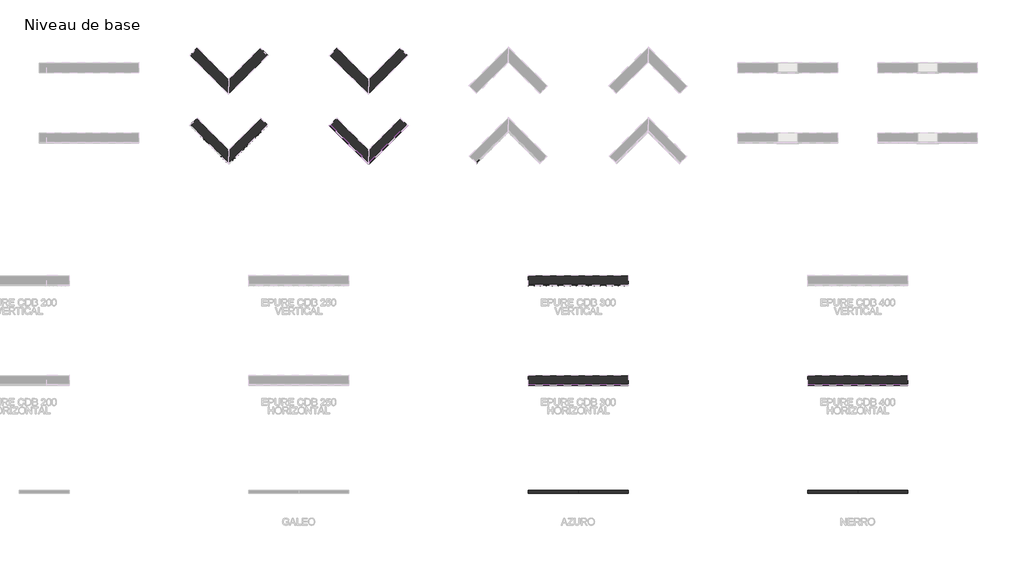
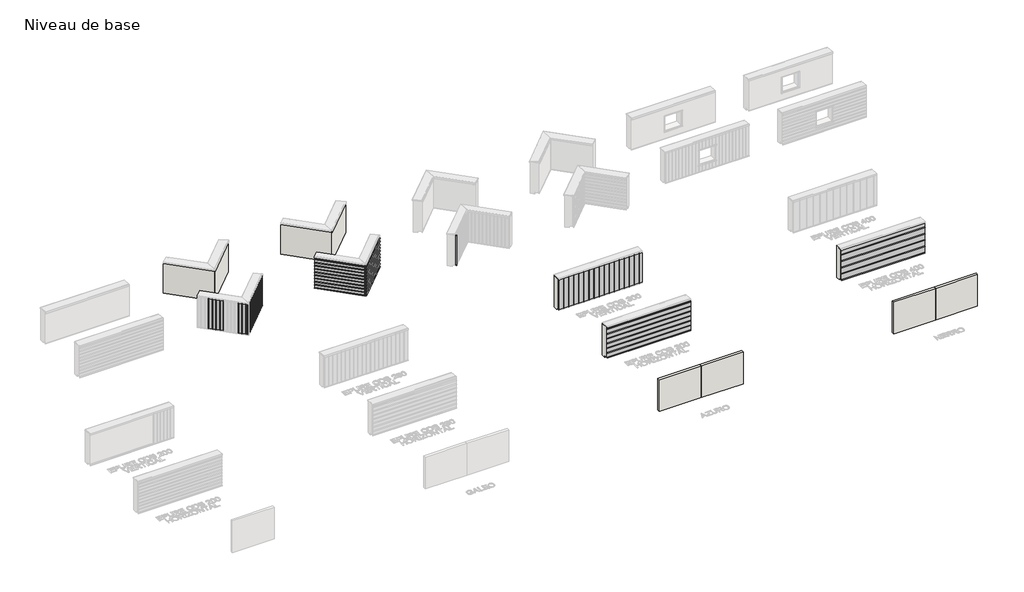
# One storey, part 2 of 13: 70 plates, 15 walls, 10 members.
"""IFC4 building model written with IfcOpenShell, lengths in millimetres."""

from ifc_helpers import new_model, si_unit, frame, origin, origin_with_axes, place, context, project, spatial, polyline, outline, extrude, faceted_brep, transform, mapped, element, save
from components import member_9001d6f0, member_c9027878, plate_4f3c44bf, plate_3790eff7, plate_e6411eb0, plate_7d20323a, plate_a9dbc21c, plate_23d42e5c, plate_d424103e, plate_377ee14b, plate_d9d45059, plate_69c7ef5c, plate_085f16ba, plate_c27208d2

model = new_model("IFC4")

# Units and contexts
model_context = context("Model", 3, world=origin())
ifc_project = project(units=[si_unit("LENGTHUNIT", "METRE", prefix="MILLI")], contexts=[model_context])

# Site, building, storey
site = spatial("IfcSite", under=ifc_project)
building = spatial("IfcBuilding", under=site)
storey = spatial("IfcBuildingStorey", under=building, Name="Niveau de base", Elevation=0.0)

# Members
placement = place(None, origin())
member_shape = member_9001d6f0(model_context)
element("IfcMember", 1, ObjectType="Meneau d'angle en L : ATELIERS 3S_Angle sortant", at=placement, inside=storey, context=model_context, shape_type="MappedRepresentation", body=[
    mapped(member_shape, transform((-3442.9704237, 40009.4162142, 500.0), x_axis=(-0.7071067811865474, -0.7071067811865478, 0.0), y_axis=(0.7071067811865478, -0.7071067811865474, 0.0), z_axis=(0.0, 0.0, 1.0))),
])
element("IfcMember", 2, ObjectType="Meneau d'angle en L : ATELIERS 3S_Angle sortant", at=placement, inside=storey, context=model_context, shape_type="MappedRepresentation", body=[
    mapped(member_shape, transform((-3442.9704237, 40009.4162142, 700.0), x_axis=(-0.7071067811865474, -0.7071067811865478, 0.0), y_axis=(0.7071067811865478, -0.7071067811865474, 0.0), z_axis=(0.0, 0.0, 1.0))),
])
element("IfcMember", 3, ObjectType="Meneau d'angle en L : ATELIERS 3S_Angle sortant", at=placement, inside=storey, context=model_context, shape_type="MappedRepresentation", body=[
    mapped(member_shape, transform((-3442.9704237, 40009.4162142, 900.0), x_axis=(-0.7071067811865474, -0.7071067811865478, 0.0), y_axis=(0.7071067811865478, -0.7071067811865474, 0.0), z_axis=(0.0, 0.0, 1.0))),
])
element("IfcMember", 4, ObjectType="Meneau d'angle en L : ATELIERS 3S_Angle sortant", at=placement, inside=storey, context=model_context, shape_type="MappedRepresentation", body=[
    mapped(member_shape, transform((-3442.9704237, 40009.4162142, 1100.0), x_axis=(-0.7071067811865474, -0.7071067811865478, 0.0), y_axis=(0.7071067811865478, -0.7071067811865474, 0.0), z_axis=(0.0, 0.0, 1.0))),
])
element("IfcMember", 5, ObjectType="Meneau d'angle en L : ATELIERS 3S_Angle sortant", at=placement, inside=storey, context=model_context, shape_type="MappedRepresentation", body=[
    mapped(member_shape, transform((-3442.9704237, 40009.4162142, 1300.0), x_axis=(-0.7071067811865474, -0.7071067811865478, 0.0), y_axis=(0.7071067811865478, -0.7071067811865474, 0.0), z_axis=(0.0, 0.0, 1.0))),
])
element("IfcMember", 6, ObjectType="Meneau d'angle en L : ATELIERS 3S_Angle sortant", at=placement, inside=storey, context=model_context, shape_type="MappedRepresentation", body=[
    mapped(member_shape, transform((-3442.9704237, 40009.4162142, 1500.0), x_axis=(-0.7071067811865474, -0.7071067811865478, 0.0), y_axis=(0.7071067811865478, -0.7071067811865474, 0.0), z_axis=(0.0, 0.0, 1.0))),
])
element("IfcMember", 7, ObjectType="Meneau d'angle en L : ATELIERS 3S_Angle sortant", at=placement, inside=storey, context=model_context, shape_type="MappedRepresentation", body=[
    mapped(member_shape, transform((-3442.9704237, 40009.4162142, 1700.0), x_axis=(-0.7071067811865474, -0.7071067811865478, 0.0), y_axis=(0.7071067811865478, -0.7071067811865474, 0.0), z_axis=(0.0, 0.0, 1.0))),
])
element("IfcMember", 8, ObjectType="Meneau d'angle en L : ATELIERS 3S_Angle sortant", at=placement, inside=storey, context=model_context, shape_type="MappedRepresentation", body=[
    mapped(member_shape, transform((-3442.9704237, 40009.4162142, 1900.0), x_axis=(-0.7071067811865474, -0.7071067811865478, 0.0), y_axis=(0.7071067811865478, -0.7071067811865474, 0.0), z_axis=(0.0, 0.0, 1.0))),
])
element("IfcMember", 9, ObjectType="Meneau d'angle en L : ATELIERS 3S_Angle sortant", at=placement, inside=storey, context=model_context, shape_type="MappedRepresentation", body=[
    mapped(member_shape, transform((-3442.9704237, 40009.4162142, 300.0), x_axis=(-0.7071067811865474, -0.7071067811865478, 0.0), y_axis=(0.7071067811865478, -0.7071067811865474, 0.0), z_axis=(0.0, 0.0, 1.0))),
])
member_2_shape = member_c9027878(model_context)
element("IfcMember", 10, ObjectType="Meneau d'angle en L : ATELIERS 3S_Angle sortant", at=placement, inside=storey, context=model_context, shape_type="MappedRepresentation", body=[
    mapped(member_2_shape, transform((-3442.9704237, 40009.4162142, 2000.0), x_axis=(-0.7071067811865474, -0.7071067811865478, 0.0), y_axis=(0.7071067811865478, -0.7071067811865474, 0.0), z_axis=(0.0, 0.0, 1.0))),
])

# Plates
plate_shape = plate_4f3c44bf(model_context)
element("IfcPlate", 11, ObjectType="ATELIERS 3S_EPURE CDB 200_HORIZONTAL : AZURO", at=placement, inside=storey, context=model_context, shape_type="MappedRepresentation", body=[
    mapped(plate_shape, transform((-4407.4640733, 40973.9098637, 100.0), x_axis=(0.7071067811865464, -0.7071067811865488, 0.0), y_axis=(0.7071067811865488, 0.7071067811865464, 0.0), z_axis=(0.0, 0.0, 1.0))),
])
element("IfcPlate", 12, ObjectType="ATELIERS 3S_EPURE CDB 200_HORIZONTAL : AZURO", at=placement, inside=storey, context=model_context, shape_type="MappedRepresentation", body=[
    mapped(plate_shape, transform((-4407.4640733, 40973.9098637, 300.0), x_axis=(0.7071067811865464, -0.7071067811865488, 0.0), y_axis=(0.7071067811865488, 0.7071067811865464, 0.0), z_axis=(0.0, 0.0, 1.0))),
])
element("IfcPlate", 13, ObjectType="ATELIERS 3S_EPURE CDB 200_HORIZONTAL : AZURO", at=placement, inside=storey, context=model_context, shape_type="MappedRepresentation", body=[
    mapped(plate_shape, transform((-4407.4640733, 40973.9098637, 500.0), x_axis=(0.7071067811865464, -0.7071067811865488, 0.0), y_axis=(0.7071067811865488, 0.7071067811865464, 0.0), z_axis=(0.0, 0.0, 1.0))),
])
element("IfcPlate", 14, ObjectType="ATELIERS 3S_EPURE CDB 200_HORIZONTAL : AZURO", at=placement, inside=storey, context=model_context, shape_type="MappedRepresentation", body=[
    mapped(plate_shape, transform((-4407.4640733, 40973.9098637, 700.0), x_axis=(0.7071067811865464, -0.7071067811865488, 0.0), y_axis=(0.7071067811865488, 0.7071067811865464, 0.0), z_axis=(0.0, 0.0, 1.0))),
])
element("IfcPlate", 15, ObjectType="ATELIERS 3S_EPURE CDB 200_HORIZONTAL : AZURO", at=placement, inside=storey, context=model_context, shape_type="MappedRepresentation", body=[
    mapped(plate_shape, transform((-4407.4640733, 40973.9098637, 900.0), x_axis=(0.7071067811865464, -0.7071067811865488, 0.0), y_axis=(0.7071067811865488, 0.7071067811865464, 0.0), z_axis=(0.0, 0.0, 1.0))),
])
element("IfcPlate", 16, ObjectType="ATELIERS 3S_EPURE CDB 200_HORIZONTAL : AZURO", at=placement, inside=storey, context=model_context, shape_type="MappedRepresentation", body=[
    mapped(plate_shape, transform((-4407.4640733, 40973.9098637, 1100.0), x_axis=(0.7071067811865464, -0.7071067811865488, 0.0), y_axis=(0.7071067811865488, 0.7071067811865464, 0.0), z_axis=(0.0, 0.0, 1.0))),
])
element("IfcPlate", 17, ObjectType="ATELIERS 3S_EPURE CDB 200_HORIZONTAL : AZURO", at=placement, inside=storey, context=model_context, shape_type="MappedRepresentation", body=[
    mapped(plate_shape, transform((-4407.4640733, 40973.9098637, 1300.0), x_axis=(0.7071067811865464, -0.7071067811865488, 0.0), y_axis=(0.7071067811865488, 0.7071067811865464, 0.0), z_axis=(0.0, 0.0, 1.0))),
])
element("IfcPlate", 18, ObjectType="ATELIERS 3S_EPURE CDB 200_HORIZONTAL : AZURO", at=placement, inside=storey, context=model_context, shape_type="MappedRepresentation", body=[
    mapped(plate_shape, transform((-4407.4640733, 40973.9098637, 1500.0), x_axis=(0.7071067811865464, -0.7071067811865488, 0.0), y_axis=(0.7071067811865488, 0.7071067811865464, 0.0), z_axis=(0.0, 0.0, 1.0))),
])
element("IfcPlate", 19, ObjectType="ATELIERS 3S_EPURE CDB 200_HORIZONTAL : AZURO", at=placement, inside=storey, context=model_context, shape_type="MappedRepresentation", body=[
    mapped(plate_shape, transform((-4407.4640733, 40973.9098637, 1700.0), x_axis=(0.7071067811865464, -0.7071067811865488, 0.0), y_axis=(0.7071067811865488, 0.7071067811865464, 0.0), z_axis=(0.0, 0.0, 1.0))),
])
plate_2_shape = plate_3790eff7(model_context)
element("IfcPlate", 20, ObjectType="ATELIERS 3S_EPURE CDB 200_HORIZONTAL : AZURO", at=placement, inside=storey, context=model_context, shape_type="MappedRepresentation", body=[
    mapped(plate_2_shape, transform((-2481.8355314, 40970.5511065, 100.0), x_axis=(0.7071067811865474, 0.7071067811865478, 0.0), y_axis=(-0.7071067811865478, 0.7071067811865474, 0.0), z_axis=(0.0, 0.0, 1.0))),
])
element("IfcPlate", 21, ObjectType="ATELIERS 3S_EPURE CDB 200_HORIZONTAL : AZURO", at=placement, inside=storey, context=model_context, shape_type="MappedRepresentation", body=[
    mapped(plate_2_shape, transform((-2481.8355314, 40970.5511065, 300.0), x_axis=(0.7071067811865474, 0.7071067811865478, 0.0), y_axis=(-0.7071067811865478, 0.7071067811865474, 0.0), z_axis=(0.0, 0.0, 1.0))),
])
element("IfcPlate", 22, ObjectType="ATELIERS 3S_EPURE CDB 200_HORIZONTAL : AZURO", at=placement, inside=storey, context=model_context, shape_type="MappedRepresentation", body=[
    mapped(plate_2_shape, transform((-2481.8355314, 40970.5511065, 500.0), x_axis=(0.7071067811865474, 0.7071067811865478, 0.0), y_axis=(-0.7071067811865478, 0.7071067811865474, 0.0), z_axis=(0.0, 0.0, 1.0))),
])
element("IfcPlate", 23, ObjectType="ATELIERS 3S_EPURE CDB 200_HORIZONTAL : AZURO", at=placement, inside=storey, context=model_context, shape_type="MappedRepresentation", body=[
    mapped(plate_2_shape, transform((-2481.8355314, 40970.5511065, 700.0), x_axis=(0.7071067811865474, 0.7071067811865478, 0.0), y_axis=(-0.7071067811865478, 0.7071067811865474, 0.0), z_axis=(0.0, 0.0, 1.0))),
])
element("IfcPlate", 24, ObjectType="ATELIERS 3S_EPURE CDB 200_HORIZONTAL : AZURO", at=placement, inside=storey, context=model_context, shape_type="MappedRepresentation", body=[
    mapped(plate_2_shape, transform((-2481.8355314, 40970.5511065, 900.0), x_axis=(0.7071067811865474, 0.7071067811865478, 0.0), y_axis=(-0.7071067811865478, 0.7071067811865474, 0.0), z_axis=(0.0, 0.0, 1.0))),
])
element("IfcPlate", 25, ObjectType="ATELIERS 3S_EPURE CDB 200_HORIZONTAL : AZURO", at=placement, inside=storey, context=model_context, shape_type="MappedRepresentation", body=[
    mapped(plate_2_shape, transform((-2481.8355314, 40970.5511065, 1100.0), x_axis=(0.7071067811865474, 0.7071067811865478, 0.0), y_axis=(-0.7071067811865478, 0.7071067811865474, 0.0), z_axis=(0.0, 0.0, 1.0))),
])
element("IfcPlate", 26, ObjectType="ATELIERS 3S_EPURE CDB 200_HORIZONTAL : AZURO", at=placement, inside=storey, context=model_context, shape_type="MappedRepresentation", body=[
    mapped(plate_2_shape, transform((-2481.8355314, 40970.5511065, 1300.0), x_axis=(0.7071067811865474, 0.7071067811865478, 0.0), y_axis=(-0.7071067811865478, 0.7071067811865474, 0.0), z_axis=(0.0, 0.0, 1.0))),
])
element("IfcPlate", 27, ObjectType="ATELIERS 3S_EPURE CDB 200_HORIZONTAL : AZURO", at=placement, inside=storey, context=model_context, shape_type="MappedRepresentation", body=[
    mapped(plate_2_shape, transform((-2481.8355314, 40970.5511065, 1500.0), x_axis=(0.7071067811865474, 0.7071067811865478, 0.0), y_axis=(-0.7071067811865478, 0.7071067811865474, 0.0), z_axis=(0.0, 0.0, 1.0))),
])
element("IfcPlate", 28, ObjectType="ATELIERS 3S_EPURE CDB 200_HORIZONTAL : AZURO", at=placement, inside=storey, context=model_context, shape_type="MappedRepresentation", body=[
    mapped(plate_2_shape, transform((-2481.8355314, 40970.5511065, 1700.0), x_axis=(0.7071067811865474, 0.7071067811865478, 0.0), y_axis=(-0.7071067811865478, 0.7071067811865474, 0.0), z_axis=(0.0, 0.0, 1.0))),
])
plate_3_shape = plate_e6411eb0(model_context)
element("IfcPlate", 29, ObjectType="ATELIERS 3S_EPURE CDB 200_HORIZONTAL : AZURO", at=placement, inside=storey, context=model_context, shape_type="MappedRepresentation", body=[
    mapped(plate_3_shape, transform((-4407.4640733, 40973.9098637, 1900.0), x_axis=(0.7071067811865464, -0.7071067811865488, 0.0), y_axis=(0.7071067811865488, 0.7071067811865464, 0.0), z_axis=(0.0, 0.0, 1.0))),
])
plate_4_shape = plate_7d20323a(model_context)
element("IfcPlate", 30, ObjectType="ATELIERS 3S_EPURE CDB 200_HORIZONTAL : AZURO", at=placement, inside=storey, context=model_context, shape_type="MappedRepresentation", body=[
    mapped(plate_4_shape, transform((-2481.8355314, 40970.5511065, 1900.0), x_axis=(0.7071067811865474, 0.7071067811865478, 0.0), y_axis=(-0.7071067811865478, 0.7071067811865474, 0.0), z_axis=(0.0, 0.0, 1.0))),
])
plate_5_shape = plate_a9dbc21c(model_context)
element("IfcPlate", 31, ObjectType="ATELIERS 3S_EPURE CDB 200_VERTICAL : AZURO", at=placement, inside=storey, context=model_context, shape_type="MappedRepresentation", body=[
    mapped(plate_5_shape, transform((2012.7083663, 40086.8444068, 100.0), x_axis=(0.7071067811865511, 0.707106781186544, 0.0), y_axis=(-0.707106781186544, 0.7071067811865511, 0.0), z_axis=(0.0, 0.0, 1.0))),
])
element("IfcPlate", 32, ObjectType="ATELIERS 3S_EPURE CDB 200_VERTICAL : AZURO", at=placement, inside=storey, context=model_context, shape_type="MappedRepresentation", body=[
    mapped(plate_5_shape, transform((-11868.4976944, 41434.9434848, 100.0), x_axis=(0.7071067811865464, -0.7071067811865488, 0.0), y_axis=(0.7071067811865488, 0.7071067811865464, 0.0), z_axis=(0.0, 0.0, 1.0))),
])
element("IfcPlate", 33, ObjectType="ATELIERS 3S_EPURE CDB 200_VERTICAL : AZURO", at=placement, inside=storey, context=model_context, shape_type="MappedRepresentation", body=[
    mapped(plate_5_shape, transform((-11727.0763381, 41293.5221286, 100.0), x_axis=(0.7071067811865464, -0.7071067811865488, 0.0), y_axis=(0.7071067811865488, 0.7071067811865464, 0.0), z_axis=(0.0, 0.0, 1.0))),
])
element("IfcPlate", 34, ObjectType="ATELIERS 3S_EPURE CDB 200_VERTICAL : AZURO", at=placement, inside=storey, context=model_context, shape_type="MappedRepresentation", body=[
    mapped(plate_5_shape, transform((-11585.6549819, 41152.1007724, 100.0), x_axis=(0.7071067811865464, -0.7071067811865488, 0.0), y_axis=(0.7071067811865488, 0.7071067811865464, 0.0), z_axis=(0.0, 0.0, 1.0))),
])
element("IfcPlate", 35, ObjectType="ATELIERS 3S_EPURE CDB 200_VERTICAL : AZURO", at=placement, inside=storey, context=model_context, shape_type="MappedRepresentation", body=[
    mapped(plate_5_shape, transform((-11444.2336257, 41010.6794161, 100.0), x_axis=(0.7071067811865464, -0.7071067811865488, 0.0), y_axis=(0.7071067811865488, 0.7071067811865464, 0.0), z_axis=(0.0, 0.0, 1.0))),
])
element("IfcPlate", 36, ObjectType="ATELIERS 3S_EPURE CDB 200_VERTICAL : AZURO", at=placement, inside=storey, context=model_context, shape_type="MappedRepresentation", body=[
    mapped(plate_5_shape, transform((-10737.1268445, 40303.5726349, 100.0), x_axis=(0.7071067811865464, -0.7071067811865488, 0.0), y_axis=(0.7071067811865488, 0.7071067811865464, 0.0), z_axis=(0.0, 0.0, 1.0))),
])
element("IfcPlate", 37, ObjectType="ATELIERS 3S_EPURE CDB 200_VERTICAL : AZURO", at=placement, inside=storey, context=model_context, shape_type="MappedRepresentation", body=[
    mapped(plate_5_shape, transform((-10595.7054882, 40162.1512787, 100.0), x_axis=(0.7071067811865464, -0.7071067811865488, 0.0), y_axis=(0.7071067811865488, 0.7071067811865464, 0.0), z_axis=(0.0, 0.0, 1.0))),
])
element("IfcPlate", 38, ObjectType="ATELIERS 3S_EPURE CDB 200_VERTICAL : AZURO", at=placement, inside=storey, context=model_context, shape_type="MappedRepresentation", body=[
    mapped(plate_5_shape, transform((-10222.3531078, 40230.0335301, 100.0), x_axis=(0.7071067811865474, 0.7071067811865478, 0.0), y_axis=(-0.7071067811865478, 0.7071067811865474, 0.0), z_axis=(0.0, 0.0, 1.0))),
])
element("IfcPlate", 39, ObjectType="ATELIERS 3S_EPURE CDB 200_VERTICAL : AZURO", at=placement, inside=storey, context=model_context, shape_type="MappedRepresentation", body=[
    mapped(plate_5_shape, transform((-10080.9317515, 40371.4548864, 100.0), x_axis=(0.7071067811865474, 0.7071067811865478, 0.0), y_axis=(-0.7071067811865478, 0.7071067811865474, 0.0), z_axis=(0.0, 0.0, 1.0))),
])
element("IfcPlate", 40, ObjectType="ATELIERS 3S_EPURE CDB 200_VERTICAL : AZURO", at=placement, inside=storey, context=model_context, shape_type="MappedRepresentation", body=[
    mapped(plate_5_shape, transform((-9939.5103953, 40512.8762426, 100.0), x_axis=(0.7071067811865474, 0.7071067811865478, 0.0), y_axis=(-0.7071067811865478, 0.7071067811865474, 0.0), z_axis=(0.0, 0.0, 1.0))),
])
element("IfcPlate", 41, ObjectType="ATELIERS 3S_EPURE CDB 200_VERTICAL : AZURO", at=placement, inside=storey, context=model_context, shape_type="MappedRepresentation", body=[
    mapped(plate_5_shape, transform((-9798.0890391, 40654.2975988, 100.0), x_axis=(0.7071067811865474, 0.7071067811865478, 0.0), y_axis=(-0.7071067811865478, 0.7071067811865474, 0.0), z_axis=(0.0, 0.0, 1.0))),
])
element("IfcPlate", 42, ObjectType="ATELIERS 3S_EPURE CDB 200_VERTICAL : AZURO", at=placement, inside=storey, context=model_context, shape_type="MappedRepresentation", body=[
    mapped(plate_5_shape, transform((-9656.6676828, 40795.7189551, 100.0), x_axis=(0.7071067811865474, 0.7071067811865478, 0.0), y_axis=(-0.7071067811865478, 0.7071067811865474, 0.0), z_axis=(0.0, 0.0, 1.0))),
])
element("IfcPlate", 43, ObjectType="ATELIERS 3S_EPURE CDB 200_VERTICAL : AZURO", at=placement, inside=storey, context=model_context, shape_type="MappedRepresentation", body=[
    mapped(plate_5_shape, transform((-9515.2463266, 40937.1403113, 100.0), x_axis=(0.7071067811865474, 0.7071067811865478, 0.0), y_axis=(-0.7071067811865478, 0.7071067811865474, 0.0), z_axis=(0.0, 0.0, 1.0))),
])
element("IfcPlate", 44, ObjectType="ATELIERS 3S_EPURE CDB 200_VERTICAL : AZURO", at=placement, inside=storey, context=model_context, shape_type="MappedRepresentation", body=[
    mapped(plate_5_shape, transform((-9373.8249704, 41078.5616676, 100.0), x_axis=(0.7071067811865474, 0.7071067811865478, 0.0), y_axis=(-0.7071067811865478, 0.7071067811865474, 0.0), z_axis=(0.0, 0.0, 1.0))),
])
element("IfcPlate", 45, ObjectType="ATELIERS 3S_EPURE CDB 200_VERTICAL : AZURO", at=placement, inside=storey, context=model_context, shape_type="MappedRepresentation", body=[
    mapped(plate_5_shape, transform((-9232.4036141, 41219.9830238, 100.0), x_axis=(0.7071067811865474, 0.7071067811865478, 0.0), y_axis=(-0.7071067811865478, 0.7071067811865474, 0.0), z_axis=(0.0, 0.0, 1.0))),
])
element("IfcPlate", 46, ObjectType="ATELIERS 3S_EPURE CDB 200_VERTICAL : AZURO", at=placement, inside=storey, context=model_context, shape_type="MappedRepresentation", body=[
    mapped(plate_5_shape, transform((-9090.9822579, 41361.40438, 100.0), x_axis=(0.7071067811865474, 0.7071067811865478, 0.0), y_axis=(-0.7071067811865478, 0.7071067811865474, 0.0), z_axis=(0.0, 0.0, 1.0))),
])
element("IfcPlate", 47, ObjectType="ATELIERS 3S_EPURE CDB 200_VERTICAL : AZURO", at=placement, inside=storey, context=model_context, shape_type="MappedRepresentation", body=[
    mapped(plate_5_shape, transform((-8949.5609016, 41502.8257363, 100.0), x_axis=(0.7071067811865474, 0.7071067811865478, 0.0), y_axis=(-0.7071067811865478, 0.7071067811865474, 0.0), z_axis=(0.0, 0.0, 1.0))),
])
element("IfcPlate", 48, ObjectType="ATELIERS 3S_EPURE CDB 200_VERTICAL : AZURO", at=placement, inside=storey, context=model_context, shape_type="MappedRepresentation", body=[
    mapped(plate_5_shape, transform((-8808.1395454, 41644.2470925, 100.0), x_axis=(0.7071067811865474, 0.7071067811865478, 0.0), y_axis=(-0.7071067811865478, 0.7071067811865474, 0.0), z_axis=(0.0, 0.0, 1.0))),
])
element("IfcPlate", 49, ObjectType="ATELIERS 3S_EPURE CDB 200_VERTICAL : AZURO", at=placement, inside=storey, context=model_context, shape_type="MappedRepresentation", body=[
    mapped(plate_5_shape, transform((-8666.7181892, 41785.6684487, 100.0), x_axis=(0.7071067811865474, 0.7071067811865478, 0.0), y_axis=(-0.7071067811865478, 0.7071067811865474, 0.0), z_axis=(0.0, 0.0, 1.0))),
])
plate_6_shape = plate_23d42e5c(model_context)
element("IfcPlate", 50, ObjectType="ATELIERS 3S_EPURE CDB 200_VERTICAL : AZURO", at=placement, inside=storey, context=model_context, shape_type="MappedRepresentation", body=[
    mapped(plate_6_shape, transform((-10488.2252576, 40054.6710481, 100.0), x_axis=(0.7071067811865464, -0.7071067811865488, 0.0), y_axis=(0.7071067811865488, 0.7071067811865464, 0.0), z_axis=(0.0, 0.0, 1.0))),
])
plate_7_shape = plate_d424103e(model_context)
element("IfcPlate", 51, ObjectType="ATELIERS 3S_EPURE CDB 200_VERTICAL : AZURO", at=placement, inside=storey, context=model_context, shape_type="MappedRepresentation", body=[
    mapped(plate_7_shape, transform((-8562.5967157, 41889.7899222, 100.0), x_axis=(0.7071067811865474, 0.7071067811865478, 0.0), y_axis=(-0.7071067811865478, 0.7071067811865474, 0.0), z_axis=(0.0, 0.0, 1.0))),
])
plate_8_shape = plate_377ee14b(model_context)
element("IfcPlate", 52, ObjectType="ATELIERS 3S_EPURE CDB 300_HORIZONTAL : AZURO", at=placement, inside=storey, context=model_context, shape_type="MappedRepresentation", body=[
    mapped(plate_8_shape, transform((7057.0295763, 28905.7785953, 100.0), x_axis=(1.0, 0.0, 0.0), y_axis=(0.0, 1.0, 0.0), z_axis=(0.0, 0.0, 1.0))),
])
element("IfcPlate", 53, ObjectType="ATELIERS 3S_EPURE CDB 300_HORIZONTAL : AZURO", at=placement, inside=storey, context=model_context, shape_type="MappedRepresentation", body=[
    mapped(plate_8_shape, transform((7057.0295763, 28905.7785953, 400.0), x_axis=(1.0, 0.0, 0.0), y_axis=(0.0, 1.0, 0.0), z_axis=(0.0, 0.0, 1.0))),
])
element("IfcPlate", 54, ObjectType="ATELIERS 3S_EPURE CDB 300_HORIZONTAL : AZURO", at=placement, inside=storey, context=model_context, shape_type="MappedRepresentation", body=[
    mapped(plate_8_shape, transform((7057.0295763, 28905.7785953, 700.0), x_axis=(1.0, 0.0, 0.0), y_axis=(0.0, 1.0, 0.0), z_axis=(0.0, 0.0, 1.0))),
])
element("IfcPlate", 55, ObjectType="ATELIERS 3S_EPURE CDB 300_HORIZONTAL : AZURO", at=placement, inside=storey, context=model_context, shape_type="MappedRepresentation", body=[
    mapped(plate_8_shape, transform((7057.0295763, 28905.7785953, 1000.0), x_axis=(1.0, 0.0, 0.0), y_axis=(0.0, 1.0, 0.0), z_axis=(0.0, 0.0, 1.0))),
])
element("IfcPlate", 56, ObjectType="ATELIERS 3S_EPURE CDB 300_HORIZONTAL : AZURO", at=placement, inside=storey, context=model_context, shape_type="MappedRepresentation", body=[
    mapped(plate_8_shape, transform((7057.0295763, 28905.7785953, 1300.0), x_axis=(1.0, 0.0, 0.0), y_axis=(0.0, 1.0, 0.0), z_axis=(0.0, 0.0, 1.0))),
])
element("IfcPlate", 57, ObjectType="ATELIERS 3S_EPURE CDB 300_HORIZONTAL : AZURO", at=placement, inside=storey, context=model_context, shape_type="MappedRepresentation", body=[
    mapped(plate_8_shape, transform((7057.0295763, 28905.7785953, 1600.0), x_axis=(1.0, 0.0, 0.0), y_axis=(0.0, 1.0, 0.0), z_axis=(0.0, 0.0, 1.0))),
])
plate_9_shape = plate_d9d45059(model_context)
element("IfcPlate", 58, ObjectType="ATELIERS 3S_EPURE CDB 300_HORIZONTAL : AZURO", at=placement, inside=storey, context=model_context, shape_type="MappedRepresentation", body=[
    mapped(plate_9_shape, transform((7057.0295763, 28905.7785953, 1900.0), x_axis=(1.0, 0.0, 0.0), y_axis=(0.0, 1.0, 0.0), z_axis=(0.0, 0.0, 1.0))),
])
plate_10_shape = plate_69c7ef5c(model_context)
element("IfcPlate", 59, ObjectType="ATELIERS 3S_EPURE CDB 300_VERTICAL : AZURO", at=placement, inside=storey, context=model_context, shape_type="MappedRepresentation", body=[
    mapped(plate_10_shape, transform((4707.0295764, 33905.7785953, 100.0), x_axis=(1.0, 0.0, 0.0), y_axis=(0.0, 1.0, 0.0), z_axis=(0.0, 0.0, 1.0))),
])
element("IfcPlate", 60, ObjectType="ATELIERS 3S_EPURE CDB 300_VERTICAL : AZURO", at=placement, inside=storey, context=model_context, shape_type="MappedRepresentation", body=[
    mapped(plate_10_shape, transform((8007.0295766, 33905.7785953, 100.0), x_axis=(1.0, 0.0, 0.0), y_axis=(0.0, 1.0, 0.0), z_axis=(0.0, 0.0, 1.0))),
])
element("IfcPlate", 61, ObjectType="ATELIERS 3S_EPURE CDB 300_VERTICAL : AZURO", at=placement, inside=storey, context=model_context, shape_type="MappedRepresentation", body=[
    mapped(plate_10_shape, transform((8307.0295766, 33905.7785953, 100.0), x_axis=(1.0, 0.0, 0.0), y_axis=(0.0, 1.0, 0.0), z_axis=(0.0, 0.0, 1.0))),
])
element("IfcPlate", 62, ObjectType="ATELIERS 3S_EPURE CDB 300_VERTICAL : AZURO", at=placement, inside=storey, context=model_context, shape_type="MappedRepresentation", body=[
    mapped(plate_10_shape, transform((8607.0295766, 33905.7785953, 100.0), x_axis=(1.0, 0.0, 0.0), y_axis=(0.0, 1.0, 0.0), z_axis=(0.0, 0.0, 1.0))),
])
element("IfcPlate", 63, ObjectType="ATELIERS 3S_EPURE CDB 300_VERTICAL : AZURO", at=placement, inside=storey, context=model_context, shape_type="MappedRepresentation", body=[
    mapped(plate_10_shape, transform((8907.0295766, 33905.7785953, 100.0), x_axis=(1.0, 0.0, 0.0), y_axis=(0.0, 1.0, 0.0), z_axis=(0.0, 0.0, 1.0))),
])
element("IfcPlate", 64, ObjectType="ATELIERS 3S_EPURE CDB 300_VERTICAL : AZURO", at=placement, inside=storey, context=model_context, shape_type="MappedRepresentation", body=[
    mapped(plate_10_shape, transform((9207.0295766, 33905.7785953, 100.0), x_axis=(1.0, 0.0, 0.0), y_axis=(0.0, 1.0, 0.0), z_axis=(0.0, 0.0, 1.0))),
])
element("IfcPlate", 65, ObjectType="ATELIERS 3S_EPURE CDB 300_VERTICAL : AZURO", at=placement, inside=storey, context=model_context, shape_type="MappedRepresentation", body=[
    mapped(plate_10_shape, transform((7707.0295766, 33905.7785953, 100.0), x_axis=(1.0, 0.0, 0.0), y_axis=(0.0, 1.0, 0.0), z_axis=(0.0, 0.0, 1.0))),
])
element("IfcPlate", 66, ObjectType="ATELIERS 3S_EPURE CDB 300_VERTICAL : AZURO", at=placement, inside=storey, context=model_context, shape_type="MappedRepresentation", body=[
    mapped(plate_10_shape, transform((7407.0295766, 33905.7785953, 100.0), x_axis=(1.0, 0.0, 0.0), y_axis=(0.0, 1.0, 0.0), z_axis=(0.0, 0.0, 1.0))),
])
element("IfcPlate", 67, ObjectType="ATELIERS 3S_EPURE CDB 300_VERTICAL : AZURO", at=placement, inside=storey, context=model_context, shape_type="MappedRepresentation", body=[
    mapped(plate_10_shape, transform((7107.0295766, 33905.7785953, 100.0), x_axis=(1.0, 0.0, 0.0), y_axis=(0.0, 1.0, 0.0), z_axis=(0.0, 0.0, 1.0))),
])
element("IfcPlate", 68, ObjectType="ATELIERS 3S_EPURE CDB 300_VERTICAL : AZURO", at=placement, inside=storey, context=model_context, shape_type="MappedRepresentation", body=[
    mapped(plate_10_shape, transform((6807.0295766, 33905.7785953, 100.0), x_axis=(1.0, 0.0, 0.0), y_axis=(0.0, 1.0, 0.0), z_axis=(0.0, 0.0, 1.0))),
])
element("IfcPlate", 69, ObjectType="ATELIERS 3S_EPURE CDB 300_VERTICAL : AZURO", at=placement, inside=storey, context=model_context, shape_type="MappedRepresentation", body=[
    mapped(plate_10_shape, transform((6507.0295766, 33905.7785953, 100.0), x_axis=(1.0, 0.0, 0.0), y_axis=(0.0, 1.0, 0.0), z_axis=(0.0, 0.0, 1.0))),
])
element("IfcPlate", 70, ObjectType="ATELIERS 3S_EPURE CDB 300_VERTICAL : AZURO", at=placement, inside=storey, context=model_context, shape_type="MappedRepresentation", body=[
    mapped(plate_10_shape, transform((6207.0295766, 33905.7785953, 100.0), x_axis=(1.0, 0.0, 0.0), y_axis=(0.0, 1.0, 0.0), z_axis=(0.0, 0.0, 1.0))),
])
element("IfcPlate", 71, ObjectType="ATELIERS 3S_EPURE CDB 300_VERTICAL : AZURO", at=placement, inside=storey, context=model_context, shape_type="MappedRepresentation", body=[
    mapped(plate_10_shape, transform((5907.0295766, 33905.7785953, 100.0), x_axis=(1.0, 0.0, 0.0), y_axis=(0.0, 1.0, 0.0), z_axis=(0.0, 0.0, 1.0))),
])
element("IfcPlate", 72, ObjectType="ATELIERS 3S_EPURE CDB 300_VERTICAL : AZURO", at=placement, inside=storey, context=model_context, shape_type="MappedRepresentation", body=[
    mapped(plate_10_shape, transform((5607.0295766, 33905.7785953, 100.0), x_axis=(1.0, 0.0, 0.0), y_axis=(0.0, 1.0, 0.0), z_axis=(0.0, 0.0, 1.0))),
])
element("IfcPlate", 73, ObjectType="ATELIERS 3S_EPURE CDB 300_VERTICAL : AZURO", at=placement, inside=storey, context=model_context, shape_type="MappedRepresentation", body=[
    mapped(plate_10_shape, transform((5307.0295766, 33905.7785953, 100.0), x_axis=(1.0, 0.0, 0.0), y_axis=(0.0, 1.0, 0.0), z_axis=(0.0, 0.0, 1.0))),
])
element("IfcPlate", 74, ObjectType="ATELIERS 3S_EPURE CDB 300_VERTICAL : AZURO", at=placement, inside=storey, context=model_context, shape_type="MappedRepresentation", body=[
    mapped(plate_10_shape, transform((5007.0295766, 33905.7785953, 100.0), x_axis=(1.0, 0.0, 0.0), y_axis=(0.0, 1.0, 0.0), z_axis=(0.0, 0.0, 1.0))),
])
plate_11_shape = plate_085f16ba(model_context)
element("IfcPlate", 75, ObjectType="ATELIERS 3S_EPURE CDB 300_VERTICAL : AZURO", at=placement, inside=storey, context=model_context, shape_type="MappedRepresentation", body=[
    mapped(plate_11_shape, transform((9457.0295764, 33905.7785953, 100.0), x_axis=(1.0, 0.0, 0.0), y_axis=(0.0, 1.0, 0.0), z_axis=(0.0, 0.0, 1.0))),
])
plate_12_shape = plate_c27208d2(model_context)
element("IfcPlate", 76, ObjectType="ATELIERS 3S_EPURE CDB 400_HORIZONTAL : AZURO", at=placement, inside=storey, context=model_context, shape_type="MappedRepresentation", body=[
    mapped(plate_12_shape, transform((21057.0295763, 28905.7785953, 100.0), x_axis=(1.0, 0.0, 0.0), y_axis=(0.0, 1.0, 0.0), z_axis=(0.0, 0.0, 1.0))),
])
element("IfcPlate", 77, ObjectType="ATELIERS 3S_EPURE CDB 400_HORIZONTAL : AZURO", at=placement, inside=storey, context=model_context, shape_type="MappedRepresentation", body=[
    mapped(plate_12_shape, transform((21057.0295763, 28905.7785953, 500.0), x_axis=(1.0, 0.0, 0.0), y_axis=(0.0, 1.0, 0.0), z_axis=(0.0, 0.0, 1.0))),
])
element("IfcPlate", 78, ObjectType="ATELIERS 3S_EPURE CDB 400_HORIZONTAL : AZURO", at=placement, inside=storey, context=model_context, shape_type="MappedRepresentation", body=[
    mapped(plate_12_shape, transform((21057.0295763, 28905.7785953, 900.0), x_axis=(1.0, 0.0, 0.0), y_axis=(0.0, 1.0, 0.0), z_axis=(0.0, 0.0, 1.0))),
])
element("IfcPlate", 79, ObjectType="ATELIERS 3S_EPURE CDB 400_HORIZONTAL : AZURO", at=placement, inside=storey, context=model_context, shape_type="MappedRepresentation", body=[
    mapped(plate_12_shape, transform((21057.0295763, 28905.7785953, 1300.0), x_axis=(1.0, 0.0, 0.0), y_axis=(0.0, 1.0, 0.0), z_axis=(0.0, 0.0, 1.0))),
])
element("IfcPlate", 80, ObjectType="ATELIERS 3S_EPURE CDB 400_HORIZONTAL : AZURO", at=placement, inside=storey, context=model_context, shape_type="MappedRepresentation", body=[
    mapped(plate_8_shape, transform((21057.0295763, 28905.7785953, 1700.0), x_axis=(1.0, 0.0, 0.0), y_axis=(0.0, 1.0, 0.0), z_axis=(0.0, 0.0, 1.0))),
])

# Walls
element("IfcWall", 81, ObjectType="ATELIERS 3S_Mur de base_LoD 300", at=placement, inside=storey, context=model_context, shape_type="Brep", body=[
    faceted_brep([(-8827.9385355, 42235.3883614, 0.0), (-10442.9704237, 40620.3564731, 0.0), (-10442.9704237, 40620.3564731, 2000.0), (-8827.9385355, 42235.3883614, 2000.0), (-8522.468406, 41929.9182319, 2000.0), (-10442.9704237, 40009.4162142, 2000.0), (-10442.9704237, 40009.4162142, 130.0), (-8522.468406, 41929.9182319, 130.0), (-8523.1755128, 41930.6253387, 130.0), (-8523.1755128, 41930.6253387, 100.0), (-8651.1618402, 42058.6116661, 100.0), (-8651.1618402, 42058.6116661, 0.0), (-10442.9704237, 40266.8030825, 0.0), (-10442.9704237, 40266.8030825, 100.0), (-10442.9704237, 40010.8304277, 100.0), (-10442.9704237, 40010.8304277, 130.0)], [[[0, 1, 2, 3]], [[4, 5, 6, 7]], [[3, 2, 5, 4]], [[0, 3, 4, 7, 8, 9, 10, 11]], [[2, 1, 12, 13, 14, 15, 6, 5]], [[1, 0, 11, 12]], [[12, 11, 10, 13]], [[13, 10, 9, 14]], [[8, 15, 14, 9]], [[15, 8, 7, 6]]]),
])
element("IfcWall", 82, ObjectType="ATELIERS 3S_Mur de base_LoD 300", at=placement, inside=storey, context=model_context, shape_type="Brep", body=[
    faceted_brep([(-10442.9704237, 40620.3564731, 0.0), (-12058.002312, 42235.3883614, 0.0), (-12058.002312, 42235.3883614, 2000.0), (-10442.9704237, 40620.3564731, 2000.0), (-10442.9704237, 40009.4162142, 2000.0), (-12363.4724414, 41929.9182319, 2000.0), (-12363.4724414, 41929.9182319, 130.0), (-10442.9704237, 40009.4162142, 130.0), (-12234.7790072, 42058.6116661, 0.0), (-12234.7790072, 42058.6116661, 100.0), (-12362.7653346, 41930.6253387, 100.0), (-12362.7653346, 41930.6253387, 130.0), (-10442.9704237, 40010.8304277, 130.0), (-10442.9704237, 40010.8304277, 100.0), (-10442.9704237, 40266.8030825, 100.0), (-10442.9704237, 40266.8030825, 0.0)], [[[0, 1, 2, 3]], [[4, 5, 6, 7]], [[2, 1, 8, 9, 10, 11, 6, 5]], [[3, 2, 5, 4]], [[0, 3, 4, 7, 12, 13, 14, 15]], [[1, 0, 15, 8]], [[8, 15, 14, 9]], [[9, 14, 13, 10]], [[11, 12, 7, 6]], [[12, 11, 10, 13]]]),
])
element("IfcWall", 83, ObjectType="ATELIERS 3S_EPURE CDB 200 VERTICAL_AZURO_LoD 100", at=placement, inside=storey, context=model_context, shape_type="Brep", body=[
    faceted_brep([(-8848.2678554, 45755.7176813, 0.0), (-10442.9704237, 44161.015113, 0.0), (-10442.9704237, 44161.015113, 2000.0), (-8848.2678554, 45755.7176813, 2000.0), (-8502.1390861, 45409.5889119, 2000.0), (-10442.9704237, 43468.7575743, 2000.0), (-10442.9704237, 43468.7575743, 100.0), (-8502.1390861, 45409.5889119, 100.0), (-10442.9704237, 43497.7489523, 2000.0), (-8516.6347751, 45424.0846009, 2000.0), (-8542.797726, 45450.2475518, 100.0), (-8542.797726, 45450.2475518, 130.0), (-8543.5048328, 45450.9546586, 130.0), (-8543.5048328, 45450.9546586, 100.0), (-8671.4911602, 45578.940986, 100.0), (-8671.4911602, 45578.940986, 0.0), (-10442.9704237, 43807.4617225, 0.0), (-10442.9704237, 43807.4617225, 100.0), (-10442.9704237, 43551.4890677, 100.0), (-10442.9704237, 43551.4890677, 130.0), (-10442.9704237, 43550.0748541, 130.0), (-10442.9704237, 43550.0748541, 100.0)], [[[0, 1, 2, 3]], [[4, 5, 6, 7]], [[3, 2, 8, 5, 4, 9]], [[0, 3, 9, 4, 7, 10, 11, 12, 13, 14, 15]], [[2, 1, 16, 17, 18, 19, 20, 21, 6, 5, 8]], [[1, 0, 15, 16]], [[16, 15, 14, 17]], [[7, 6, 21, 10]], [[17, 14, 13, 18]], [[20, 11, 10, 21]], [[12, 19, 18, 13]], [[11, 20, 19, 12]]]),
])
element("IfcWall", 84, ObjectType="ATELIERS 3S_EPURE CDB 200 VERTICAL_AZURO_LoD 100", at=placement, inside=storey, context=model_context, shape_type="Brep", body=[
    faceted_brep([(-10442.9704237, 44161.015113, 0.0), (-12037.672992, 45755.7176813, 0.0), (-12037.672992, 45755.7176813, 2000.0), (-10442.9704237, 44161.015113, 2000.0), (-12383.8017614, 45409.5889119, 2000.0), (-12383.8017614, 45409.5889119, 100.0), (-10442.9704237, 43468.7575743, 100.0), (-10442.9704237, 43468.7575743, 2000.0), (-12214.4496873, 45578.940986, 0.0), (-12214.4496873, 45578.940986, 100.0), (-12342.4360147, 45450.9546586, 100.0), (-12342.4360147, 45450.9546586, 130.0), (-12343.1431215, 45450.2475518, 130.0), (-12343.1431215, 45450.2475518, 100.0), (-12369.3060724, 45424.0846009, 2000.0), (-10442.9704237, 43497.7489523, 2000.0), (-10442.9704237, 43550.0748541, 100.0), (-10442.9704237, 43550.0748541, 130.0), (-10442.9704237, 43551.4890677, 130.0), (-10442.9704237, 43551.4890677, 100.0), (-10442.9704237, 43807.4617225, 100.0), (-10442.9704237, 43807.4617225, 0.0)], [[[0, 1, 2, 3]], [[4, 5, 6, 7]], [[2, 1, 8, 9, 10, 11, 12, 13, 5, 4, 14]], [[3, 2, 14, 4, 7, 15]], [[0, 3, 15, 7, 6, 16, 17, 18, 19, 20, 21]], [[1, 0, 21, 8]], [[8, 21, 20, 9]], [[6, 5, 13, 16]], [[9, 20, 19, 10]], [[11, 18, 17, 12]], [[12, 17, 16, 13]], [[18, 11, 10, 19]]]),
])
element("IfcWall", 85, ObjectType="Générique - 150 mm", at=placement, inside=storey, context=model_context, shape_type="SweptSolid", body=[
    extrude(outline(polyline([(7057.0295763, 23446.7785953), (4557.0295763, 23446.7785953), (4557.0295763, 23596.7785953), (7057.0295763, 23596.7785953), (7057.0295763, 23446.7785953)])), origin_with_axes(), (0.0, 0.0, 1.0), 2000.0),
])
element("IfcWall", 86, ObjectType="Générique - 150 mm", at=placement, inside=storey, context=model_context, shape_type="SweptSolid", body=[
    extrude(outline(polyline([(21057.0295763, 23446.7785953), (18557.0295763, 23446.7785953), (18557.0295763, 23596.7785953), (21057.0295763, 23596.7785953), (21057.0295763, 23446.7785953)])), origin_with_axes(), (0.0, 0.0, 1.0), 2000.0),
])
element("IfcWall", 87, ObjectType="ATELIERS 3S_Mur de base_LoD 300", at=placement, inside=storey, context=model_context, shape_type="Brep", body=[
    faceted_brep([(-1827.9385355, 42235.3883614, 0.0), (-3442.9704237, 40620.3564731, 0.0), (-3442.9704237, 40620.3564731, 2000.0), (-1827.9385355, 42235.3883614, 2000.0), (-1522.468406, 41929.9182319, 2000.0), (-3442.9704237, 40009.4162142, 2000.0), (-3442.9704237, 40009.4162142, 130.0), (-1522.468406, 41929.9182319, 130.0), (-1523.1755128, 41930.6253387, 130.0), (-1523.1755128, 41930.6253387, 100.0), (-1651.1618402, 42058.6116661, 100.0), (-1651.1618402, 42058.6116661, 0.0), (-3442.9704237, 40266.8030825, 0.0), (-3442.9704237, 40266.8030825, 100.0), (-3442.9704237, 40010.8304277, 100.0), (-3442.9704237, 40010.8304277, 130.0)], [[[0, 1, 2, 3]], [[4, 5, 6, 7]], [[3, 2, 5, 4]], [[0, 3, 4, 7, 8, 9, 10, 11]], [[2, 1, 12, 13, 14, 15, 6, 5]], [[1, 0, 11, 12]], [[12, 11, 10, 13]], [[13, 10, 9, 14]], [[8, 15, 14, 9]], [[15, 8, 7, 6]]]),
])
element("IfcWall", 88, ObjectType="ATELIERS 3S_Mur de base_LoD 300", at=placement, inside=storey, context=model_context, shape_type="Brep", body=[
    faceted_brep([(-3442.9704237, 40620.3564731, 0.0), (-5058.002312, 42235.3883614, 0.0), (-5058.002312, 42235.3883614, 2000.0), (-3442.9704237, 40620.3564731, 2000.0), (-3442.9704237, 40009.4162142, 2000.0), (-5363.4724414, 41929.9182319, 2000.0), (-5363.4724414, 41929.9182319, 130.0), (-3442.9704237, 40009.4162142, 130.0), (-5234.7790072, 42058.6116661, 0.0), (-5234.7790072, 42058.6116661, 100.0), (-5362.7653346, 41930.6253387, 100.0), (-5362.7653346, 41930.6253387, 130.0), (-3442.9704237, 40010.8304277, 130.0), (-3442.9704237, 40010.8304277, 100.0), (-3442.9704237, 40266.8030825, 100.0), (-3442.9704237, 40266.8030825, 0.0)], [[[0, 1, 2, 3]], [[4, 5, 6, 7]], [[2, 1, 8, 9, 10, 11, 6, 5]], [[3, 2, 5, 4]], [[0, 3, 4, 7, 12, 13, 14, 15]], [[1, 0, 15, 8]], [[8, 15, 14, 9]], [[9, 14, 13, 10]], [[11, 12, 7, 6]], [[12, 11, 10, 13]]]),
])
element("IfcWall", 89, ObjectType="ATELIERS 3S_EPURE CDB 200_HORIZONTAL_AZURO_LoD 100", at=placement, inside=storey, context=model_context, shape_type="Brep", body=[
    faceted_brep([(-1848.2678554, 45755.7176813, 0.0), (-3442.9704237, 44161.015113, 0.0), (-3442.9704237, 44161.015113, 2000.0), (-1848.2678554, 45755.7176813, 2000.0), (-1502.1390861, 45409.5889119, 2000.0), (-3442.9704237, 43468.7575743, 2000.0), (-3442.9704237, 43468.7575743, 100.0), (-1502.1390861, 45409.5889119, 100.0), (-3442.9704237, 43497.7489523, 2000.0), (-1516.6347751, 45424.0846009, 2000.0), (-1542.797726, 45450.2475518, 100.0), (-1542.797726, 45450.2475518, 130.0), (-1543.5048328, 45450.9546586, 130.0), (-1543.5048328, 45450.9546586, 100.0), (-1671.4911602, 45578.940986, 100.0), (-1671.4911602, 45578.940986, 0.0), (-3442.9704237, 43807.4617225, 0.0), (-3442.9704237, 43807.4617225, 100.0), (-3442.9704237, 43551.4890677, 100.0), (-3442.9704237, 43551.4890677, 130.0), (-3442.9704237, 43550.0748541, 130.0), (-3442.9704237, 43550.0748541, 100.0)], [[[0, 1, 2, 3]], [[4, 5, 6, 7]], [[3, 2, 8, 5, 4, 9]], [[0, 3, 9, 4, 7, 10, 11, 12, 13, 14, 15]], [[2, 1, 16, 17, 18, 19, 20, 21, 6, 5, 8]], [[1, 0, 15, 16]], [[16, 15, 14, 17]], [[7, 6, 21, 10]], [[17, 14, 13, 18]], [[20, 11, 10, 21]], [[12, 19, 18, 13]], [[11, 20, 19, 12]]]),
])
element("IfcWall", 90, ObjectType="ATELIERS 3S_EPURE CDB 200_HORIZONTAL_AZURO_LoD 100", at=placement, inside=storey, context=model_context, shape_type="Brep", body=[
    faceted_brep([(-3442.9704237, 44161.015113, 0.0), (-5037.672992, 45755.7176813, 0.0), (-5037.672992, 45755.7176813, 2000.0), (-3442.9704237, 44161.015113, 2000.0), (-5383.8017614, 45409.5889119, 2000.0), (-5383.8017614, 45409.5889119, 100.0), (-3442.9704237, 43468.7575743, 100.0), (-3442.9704237, 43468.7575743, 2000.0), (-5214.4496873, 45578.940986, 0.0), (-5214.4496873, 45578.940986, 100.0), (-5342.4360147, 45450.9546586, 100.0), (-5342.4360147, 45450.9546586, 130.0), (-5343.1431215, 45450.2475518, 130.0), (-5343.1431215, 45450.2475518, 100.0), (-5369.3060724, 45424.0846009, 2000.0), (-3442.9704237, 43497.7489523, 2000.0), (-3442.9704237, 43550.0748541, 100.0), (-3442.9704237, 43550.0748541, 130.0), (-3442.9704237, 43551.4890677, 130.0), (-3442.9704237, 43551.4890677, 100.0), (-3442.9704237, 43807.4617225, 100.0), (-3442.9704237, 43807.4617225, 0.0)], [[[0, 1, 2, 3]], [[4, 5, 6, 7]], [[2, 1, 8, 9, 10, 11, 12, 13, 5, 4, 14]], [[3, 2, 14, 4, 7, 15]], [[0, 3, 15, 7, 6, 16, 17, 18, 19, 20, 21]], [[1, 0, 21, 8]], [[8, 21, 20, 9]], [[6, 5, 13, 16]], [[9, 20, 19, 10]], [[11, 18, 17, 12]], [[12, 17, 16, 13]], [[18, 11, 10, 19]]]),
])
element("IfcWall", 91, ObjectType="Générique - 150 mm", at=placement, inside=storey, context=model_context, shape_type="SweptSolid", body=[
    extrude(outline(polyline([(9557.0295763, 23446.7785953), (7057.0295763, 23446.7785953), (7057.0295763, 23596.7785953), (9557.0295763, 23596.7785953), (9557.0295763, 23446.7785953)])), origin_with_axes(), (0.0, 0.0, 1.0), 2000.0),
])
element("IfcWall", 92, ObjectType="Générique - 150 mm", at=placement, inside=storey, context=model_context, shape_type="SweptSolid", body=[
    extrude(outline(polyline([(23557.0295763, 23446.7785953), (21057.0295763, 23446.7785953), (21057.0295763, 23596.7785953), (23557.0295763, 23596.7785953), (23557.0295763, 23446.7785953)])), origin_with_axes(), (0.0, 0.0, 1.0), 2000.0),
])
element("IfcWall", 93, ObjectType="ATELIERS 3S_Mur de base_LoD 300", at=placement, inside=storey, context=model_context, shape_type="SweptSolid", body=[
    extrude(outline(polyline([(34337.7785953, 2000.0), (34337.7785953, 0.0), (34087.7785953, 0.0), (34087.7785953, 100.0), (33906.7785953, 100.0), (33906.7785953, 130.0), (33905.7785953, 130.0), (33905.7785953, 2000.0), (34337.7785953, 2000.0)])), frame((4557.0295763, 0.0, 0.0), z_axis=(1.0, 0.0, 0.0), x_axis=(0.0, 1.0, 0.0)), (0.0, 0.0, 1.0), 5000.0),
])
element("IfcWall", 94, ObjectType="ATELIERS 3S_Mur de base_LoD 300", at=placement, inside=storey, context=model_context, shape_type="SweptSolid", body=[
    extrude(outline(polyline([(29337.7785953, 2000.0), (29337.7785953, 0.0), (29087.7785953, 0.0), (29087.7785953, 100.0), (28906.7785953, 100.0), (28906.7785953, 130.0), (28905.7785953, 130.0), (28905.7785953, 2000.0), (29337.7785953, 2000.0)])), frame((4557.0295763, 0.0, 0.0), z_axis=(1.0, 0.0, 0.0), x_axis=(0.0, 1.0, 0.0)), (0.0, 0.0, 1.0), 5000.0),
])
element("IfcWall", 95, ObjectType="ATELIERS 3S_Mur de base_LoD 300", at=placement, inside=storey, context=model_context, shape_type="SweptSolid", body=[
    extrude(outline(polyline([(29337.7785953, 2000.0), (29337.7785953, 0.0), (29087.7785953, 0.0), (29087.7785953, 100.0), (28906.7785953, 100.0), (28906.7785953, 130.0), (28905.7785953, 130.0), (28905.7785953, 2000.0), (29337.7785953, 2000.0)])), frame((18557.0295763, 0.0, 0.0), z_axis=(1.0, 0.0, 0.0), x_axis=(0.0, 1.0, 0.0)), (0.0, 0.0, 1.0), 5000.0),
])

save(model, "model.ifc")
